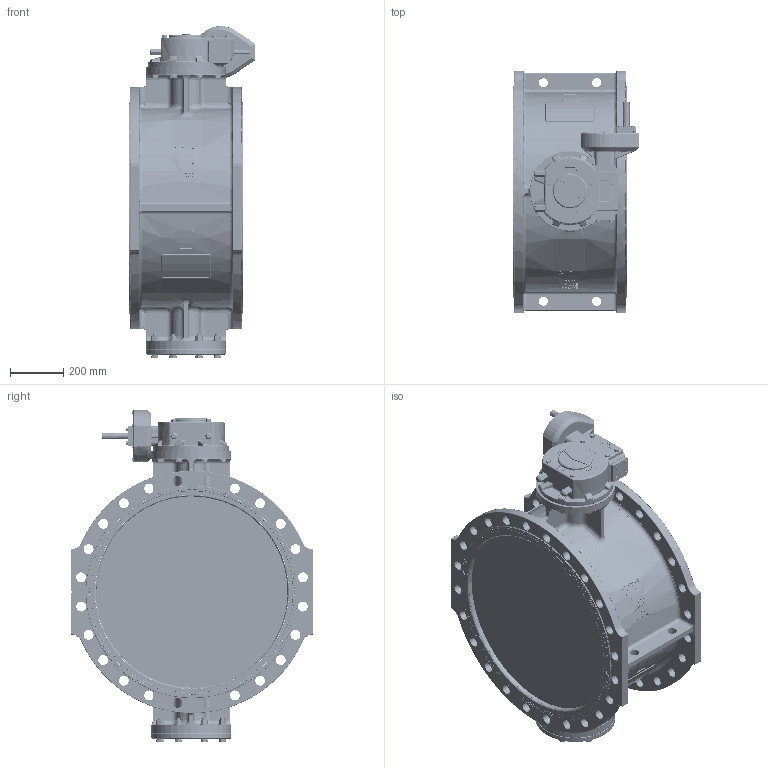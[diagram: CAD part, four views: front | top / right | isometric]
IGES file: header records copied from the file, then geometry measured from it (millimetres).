
Start section: SolidWorks IGES file using analytic representation for surfaces
Global section: file name: C:\Documents and Settings\Paji\Desktop\756070011400501\756070011400501.IGS; native system: SolidWorks 2008; preprocessor: SolidWorks 2008; author: paji; date: 100928.163448; units: millimetre
Bounding box: 475 x 910 x 1246 mm (x, y, z)
Surface area: 4368803.1 mm2 (no closed solid volume)
Topology: 0 solids, 0 shells, 4778 faces, 65537 edges, 65337 vertices
Faces by surface type: bspline 2734, revolution 2044
